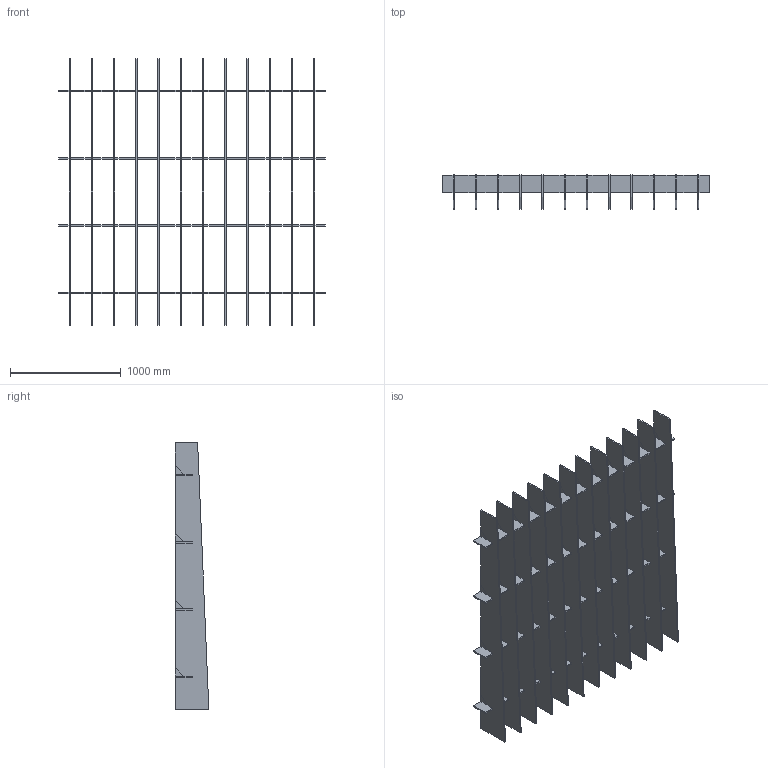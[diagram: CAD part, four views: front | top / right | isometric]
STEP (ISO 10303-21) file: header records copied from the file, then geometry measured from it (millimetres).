
FILE_DESCRIPTION(/* description */ (''),/* implementation_level */ '2;1');
FILE_NAME(/* name */ 'Y:\Design and Engineering\MaterialLogiq\CAD ASSETS\MASTER\BAFFLE\WEB ASSETS\PET BAFFLE_8x8_12FIN_10_SLANT.stp',/* time_stamp */ '2023-11-17T10:14:36-06:00',/* author */ ('Grant Baker'),/* organization */ (''),/* preprocessor_version */ 'ST-DEVELOPER v19',/* originating_system */ 'Autodesk Inventor 2023',/* authorisation */ '');
FILE_SCHEMA (('AUTOMOTIVE_DESIGN { 1 0 10303 214 3 1 1 }'));
Length unit declared in the file: inch
Products named in the file (3): PET BAFFLE_PARAMETRIC_11.02.2023; PET BAFFLE_BEAM; PET BAFFLE_FIN_96in_SLANT
Assembly tree (16 placements, depth 2):
  PET BAFFLE_PARAMETRIC_11.02.2023
    PET BAFFLE_BEAM  x4
    PET BAFFLE_FIN_96in_SLANT  x12
Bounding box: 2413 x 304.8 x 2413 mm (x, y, z)
Volume: 107216233.6 mm3; surface area: 18851396.3 mm2
Topology: 64 solids, 64 shells, 1152 faces, 3072 edges, 2048 vertices
Faces by surface type: plane 1152
Entity records: 5357 total; most frequent: CARTESIAN_POINT 943, ORIENTED_EDGE 912, DIRECTION 822, LINE 456, VECTOR 456, EDGE_CURVE 456, VERTEX_POINT 304, AXIS2_PLACEMENT_3D 183
